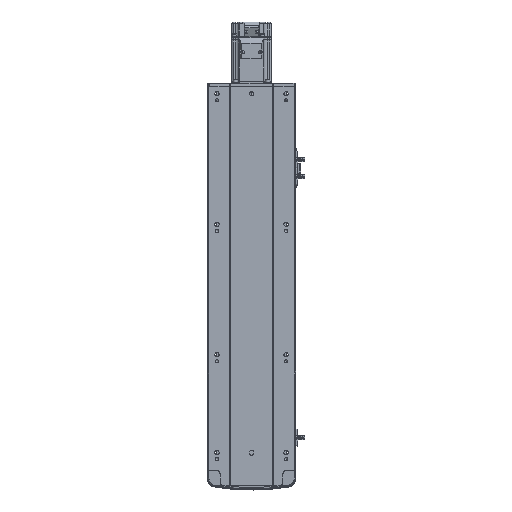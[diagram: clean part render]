
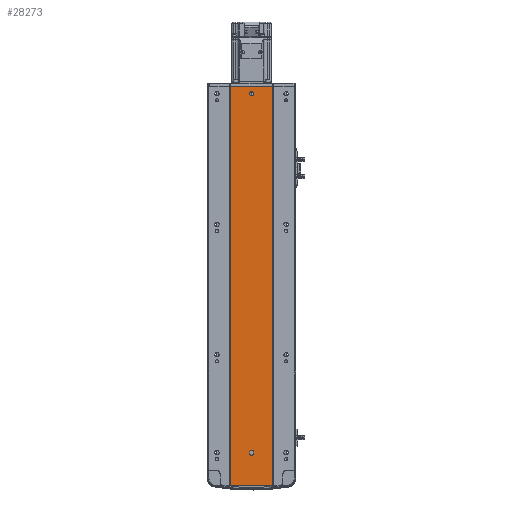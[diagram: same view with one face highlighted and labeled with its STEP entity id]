
A CAD part, top view. The second image highlights one B-rep face of the part: STEP entity #28273.
In plain terms, the highlighted planar face has unit normal (0, 0, 1).
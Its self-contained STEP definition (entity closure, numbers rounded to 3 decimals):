
#105 = ORIENTED_EDGE ( 'NONE', *, *, #53126, .F. ) ;
#611 = CARTESIAN_POINT ( 'NONE',  ( 0., -11.5, 35.45 ) ) ;
#1059 = VECTOR ( 'NONE', #3245, 1000. ) ;
#1519 = EDGE_LOOP ( 'NONE', ( #26610, #4483, #18906, #37179 ) ) ;
#2011 = AXIS2_PLACEMENT_3D ( 'NONE', #4813, #14058, #5184 ) ;
#2024 = DIRECTION ( 'NONE',  ( 1., 0., 0. ) ) ;
#2934 = VERTEX_POINT ( 'NONE', #49116 ) ;
#3245 = DIRECTION ( 'NONE',  ( 0., 1., 0. ) ) ;
#4483 = ORIENTED_EDGE ( 'NONE', *, *, #37870, .F. ) ;
#4813 = CARTESIAN_POINT ( 'NONE',  ( -32.5, -612., 35.45 ) ) ;
#5184 = DIRECTION ( 'NONE',  ( 1., 0., 0. ) ) ;
#6019 = CIRCLE ( 'NONE', #19247, 3. ) ;
#6438 = CARTESIAN_POINT ( 'NONE',  ( -3., -560.5, 35.45 ) ) ;
#6552 = DIRECTION ( 'NONE',  ( 1., 0., 0. ) ) ;
#9320 = FACE_BOUND ( 'NONE', #1519, .T. ) ;
#10028 = EDGE_CURVE ( 'NONE', #17322, #29277, #25893, .T. ) ;
#10318 = VERTEX_POINT ( 'NONE', #39127 ) ;
#10328 = CARTESIAN_POINT ( 'NONE',  ( -32.5, 0., 35.45 ) ) ;
#10476 = CARTESIAN_POINT ( 'NONE',  ( 3., -560.5, 35.45 ) ) ;
#11817 = EDGE_CURVE ( 'NONE', #41958, #10318, #40262, .T. ) ;
#12504 = CARTESIAN_POINT ( 'NONE',  ( -3., -560.5, 35.45 ) ) ;
#13523 = CARTESIAN_POINT ( 'NONE',  ( -32.5, 0., 35.45 ) ) ;
#13525 = AXIS2_PLACEMENT_3D ( 'NONE', #611, #27188, #40894 ) ;
#13683 = AXIS2_PLACEMENT_3D ( 'NONE', #27925, #32943, #6552 ) ;
#14058 = DIRECTION ( 'NONE',  ( 0., 0., 1. ) ) ;
#14178 = EDGE_CURVE ( 'NONE', #10318, #2934, #6019, .T. ) ;
#14860 = LINE ( 'NONE', #29636, #1059 ) ;
#15317 = CARTESIAN_POINT ( 'NONE',  ( 32.5, -612., 35.45 ) ) ;
#17017 = ORIENTED_EDGE ( 'NONE', *, *, #10028, .F. ) ;
#17155 = DIRECTION ( 'NONE',  ( 0., 1., 0. ) ) ;
#17322 = VERTEX_POINT ( 'NONE', #44865 ) ;
#17593 = CARTESIAN_POINT ( 'NONE',  ( -32.5, -612., 35.45 ) ) ;
#17600 = FACE_OUTER_BOUND ( 'NONE', #20338, .T. ) ;
#18717 = LINE ( 'NONE', #36465, #35962 ) ;
#18906 = ORIENTED_EDGE ( 'NONE', *, *, #14178, .F. ) ;
#19049 = ORIENTED_EDGE ( 'NONE', *, *, #19985, .F. ) ;
#19219 = CARTESIAN_POINT ( 'NONE',  ( 3., -560.5, 35.45 ) ) ;
#19247 = AXIS2_PLACEMENT_3D ( 'NONE', #22620, #31658, #32236 ) ;
#19985 = EDGE_CURVE ( 'NONE', #27797, #26169, #29023, .T. ) ;
#20338 = EDGE_LOOP ( 'NONE', ( #105, #19049, #40912, #38994 ) ) ;
#21178 = VERTEX_POINT ( 'NONE', #15317 ) ;
#22620 = CARTESIAN_POINT ( 'NONE',  ( 0., -562.5, 35.45 ) ) ;
#23615 = EDGE_CURVE ( 'NONE', #27797, #21178, #18717, .T. ) ;
#24391 = VECTOR ( 'NONE', #33019, 1000. ) ;
#25704 = DIRECTION ( 'NONE',  ( 0., 0., 1. ) ) ;
#25893 = CIRCLE ( 'NONE', #13525, 3. ) ;
#26169 = VERTEX_POINT ( 'NONE', #13523 ) ;
#26610 = ORIENTED_EDGE ( 'NONE', *, *, #47091, .F. ) ;
#27188 = DIRECTION ( 'NONE',  ( 0., 0., 1. ) ) ;
#27797 = VERTEX_POINT ( 'NONE', #17593 ) ;
#27925 = CARTESIAN_POINT ( 'NONE',  ( 0., -560.5, 35.45 ) ) ;
#28273 = ADVANCED_FACE ( 'NONE', ( #9320, #36886, #17600 ), #31188, .T. ) ;
#29023 = LINE ( 'NONE', #35448, #32439 ) ;
#29277 = VERTEX_POINT ( 'NONE', #45269 ) ;
#29636 = CARTESIAN_POINT ( 'NONE',  ( 32.5, -612., 35.45 ) ) ;
#31188 = PLANE ( 'NONE',  #2011 ) ;
#31658 = DIRECTION ( 'NONE',  ( 0., 0., 1. ) ) ;
#31981 = VERTEX_POINT ( 'NONE', #56477 ) ;
#32236 = DIRECTION ( 'NONE',  ( 1., 0., 0. ) ) ;
#32439 = VECTOR ( 'NONE', #17155, 1000. ) ;
#32531 = ORIENTED_EDGE ( 'NONE', *, *, #53297, .F. ) ;
#32943 = DIRECTION ( 'NONE',  ( 0., 0., 1. ) ) ;
#33019 = DIRECTION ( 'NONE',  ( 0., -1., 0. ) ) ;
#33306 = EDGE_CURVE ( 'NONE', #21178, #31981, #14860, .T. ) ;
#35448 = CARTESIAN_POINT ( 'NONE',  ( -32.5, -612., 35.45 ) ) ;
#35962 = VECTOR ( 'NONE', #36836, 1000. ) ;
#36465 = CARTESIAN_POINT ( 'NONE',  ( -32.5, -612., 35.45 ) ) ;
#36713 = EDGE_LOOP ( 'NONE', ( #32531, #17017 ) ) ;
#36836 = DIRECTION ( 'NONE',  ( 1., 0., 0. ) ) ;
#36886 = FACE_BOUND ( 'NONE', #36713, .T. ) ;
#37179 = ORIENTED_EDGE ( 'NONE', *, *, #11817, .F. ) ;
#37468 = VECTOR ( 'NONE', #2024, 1000. ) ;
#37505 = DIRECTION ( 'NONE',  ( 0., 1., 0. ) ) ;
#37870 = EDGE_CURVE ( 'NONE', #2934, #51107, #38530, .T. ) ;
#38530 = LINE ( 'NONE', #19219, #56487 ) ;
#38994 = ORIENTED_EDGE ( 'NONE', *, *, #33306, .T. ) ;
#39127 = CARTESIAN_POINT ( 'NONE',  ( -3., -562.5, 35.45 ) ) ;
#40262 = LINE ( 'NONE', #6438, #24391 ) ;
#40894 = DIRECTION ( 'NONE',  ( 1., 0., 0. ) ) ;
#40912 = ORIENTED_EDGE ( 'NONE', *, *, #23615, .T. ) ;
#41958 = VERTEX_POINT ( 'NONE', #12504 ) ;
#43016 = LINE ( 'NONE', #10328, #37468 ) ;
#44865 = CARTESIAN_POINT ( 'NONE',  ( -3., -11.5, 35.45 ) ) ;
#45269 = CARTESIAN_POINT ( 'NONE',  ( 3., -11.5, 35.45 ) ) ;
#47091 = EDGE_CURVE ( 'NONE', #51107, #41958, #56053, .T. ) ;
#47107 = CIRCLE ( 'NONE', #53445, 3. ) ;
#49116 = CARTESIAN_POINT ( 'NONE',  ( 3., -562.5, 35.45 ) ) ;
#51107 = VERTEX_POINT ( 'NONE', #10476 ) ;
#53126 = EDGE_CURVE ( 'NONE', #26169, #31981, #43016, .T. ) ;
#53297 = EDGE_CURVE ( 'NONE', #29277, #17322, #47107, .T. ) ;
#53445 = AXIS2_PLACEMENT_3D ( 'NONE', #56201, #25704, #56579 ) ;
#56053 = CIRCLE ( 'NONE', #13683, 3. ) ;
#56201 = CARTESIAN_POINT ( 'NONE',  ( 0., -11.5, 35.45 ) ) ;
#56477 = CARTESIAN_POINT ( 'NONE',  ( 32.5, 0., 35.45 ) ) ;
#56487 = VECTOR ( 'NONE', #37505, 1000. ) ;
#56579 = DIRECTION ( 'NONE',  ( 1., 0., 0. ) ) ;
